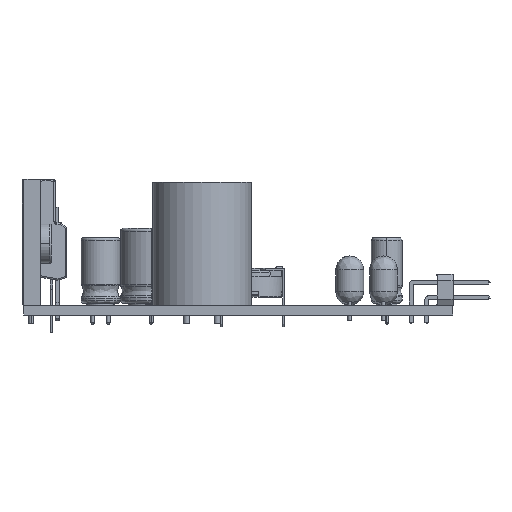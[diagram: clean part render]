
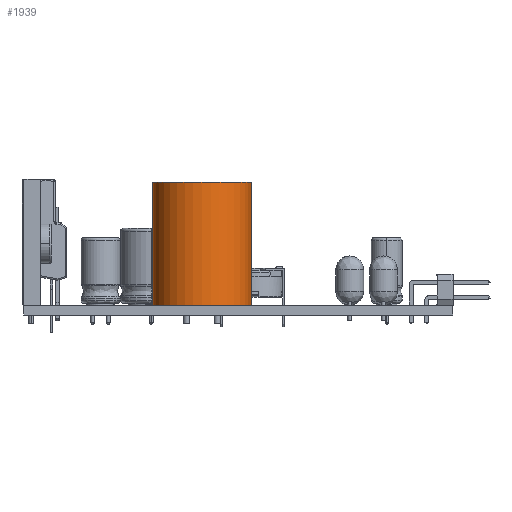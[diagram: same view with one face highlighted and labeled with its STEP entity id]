
A CAD part, front view. The second image highlights one B-rep face of the part: STEP entity #1939.
In plain terms, the highlighted cylindrical face has radius 8 mm (diameter 16 mm), a partial arc.
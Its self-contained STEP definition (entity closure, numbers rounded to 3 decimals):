
#340 = DIRECTION ( 'NONE',  ( 0., 0., -1. ) ) ;
#857 = DIRECTION ( 'NONE',  ( 0., 0., -1. ) ) ;
#1939 = ADVANCED_FACE ( 'NONE', ( #63020 ), #40725, .T. ) ;
#4811 = VECTOR ( 'NONE', #75251, 1000. ) ;
#5690 = DIRECTION ( 'NONE',  ( -1., 0., 0. ) ) ;
#6311 = CARTESIAN_POINT ( 'NONE',  ( 8., 0., 0. ) ) ;
#6930 = CARTESIAN_POINT ( 'NONE',  ( 8., 0., 20. ) ) ;
#7829 = EDGE_CURVE ( 'NONE', #31922, #23914, #67837, .T. ) ;
#8988 = AXIS2_PLACEMENT_3D ( 'NONE', #44919, #20888, #26793 ) ;
#9451 = EDGE_LOOP ( 'NONE', ( #13634, #29243, #17495, #26057 ) ) ;
#13634 = ORIENTED_EDGE ( 'NONE', *, *, #7829, .F. ) ;
#17003 = EDGE_CURVE ( 'NONE', #31922, #64146, #44619, .T. ) ;
#17495 = ORIENTED_EDGE ( 'NONE', *, *, #76553, .T. ) ;
#20888 = DIRECTION ( 'NONE',  ( 0., 0., -1. ) ) ;
#23914 = VERTEX_POINT ( 'NONE', #6311 ) ;
#23935 = DIRECTION ( 'NONE',  ( -1., 0., 0. ) ) ;
#26057 = ORIENTED_EDGE ( 'NONE', *, *, #66851, .T. ) ;
#26793 = DIRECTION ( 'NONE',  ( -1., 0., 0. ) ) ;
#28151 = CARTESIAN_POINT ( 'NONE',  ( 8., 0., 0. ) ) ;
#28842 = AXIS2_PLACEMENT_3D ( 'NONE', #59159, #340, #23935 ) ;
#29243 = ORIENTED_EDGE ( 'NONE', *, *, #17003, .T. ) ;
#31922 = VERTEX_POINT ( 'NONE', #6930 ) ;
#34749 = CARTESIAN_POINT ( 'NONE',  ( -8., 0., 0. ) ) ;
#40725 = CYLINDRICAL_SURFACE ( 'NONE', #8988, 8. ) ;
#40987 = AXIS2_PLACEMENT_3D ( 'NONE', #65223, #58790, #5690 ) ;
#42530 = VECTOR ( 'NONE', #857, 1000. ) ;
#44619 = CIRCLE ( 'NONE', #28842, 8. ) ;
#44919 = CARTESIAN_POINT ( 'NONE',  ( 0., 0., 0. ) ) ;
#54054 = CIRCLE ( 'NONE', #40987, 8. ) ;
#54218 = CARTESIAN_POINT ( 'NONE',  ( -8., 0., 20. ) ) ;
#55235 = CARTESIAN_POINT ( 'NONE',  ( -8., 0., 0. ) ) ;
#58790 = DIRECTION ( 'NONE',  ( 0., 0., 1. ) ) ;
#59159 = CARTESIAN_POINT ( 'NONE',  ( 0., 0., 20. ) ) ;
#61139 = LINE ( 'NONE', #55235, #42530 ) ;
#63020 = FACE_OUTER_BOUND ( 'NONE', #9451, .T. ) ;
#64146 = VERTEX_POINT ( 'NONE', #54218 ) ;
#65223 = CARTESIAN_POINT ( 'NONE',  ( 0., 0., 0. ) ) ;
#66851 = EDGE_CURVE ( 'NONE', #69916, #23914, #54054, .T. ) ;
#67837 = LINE ( 'NONE', #28151, #4811 ) ;
#69916 = VERTEX_POINT ( 'NONE', #34749 ) ;
#75251 = DIRECTION ( 'NONE',  ( 0., 0., -1. ) ) ;
#76553 = EDGE_CURVE ( 'NONE', #64146, #69916, #61139, .T. ) ;
